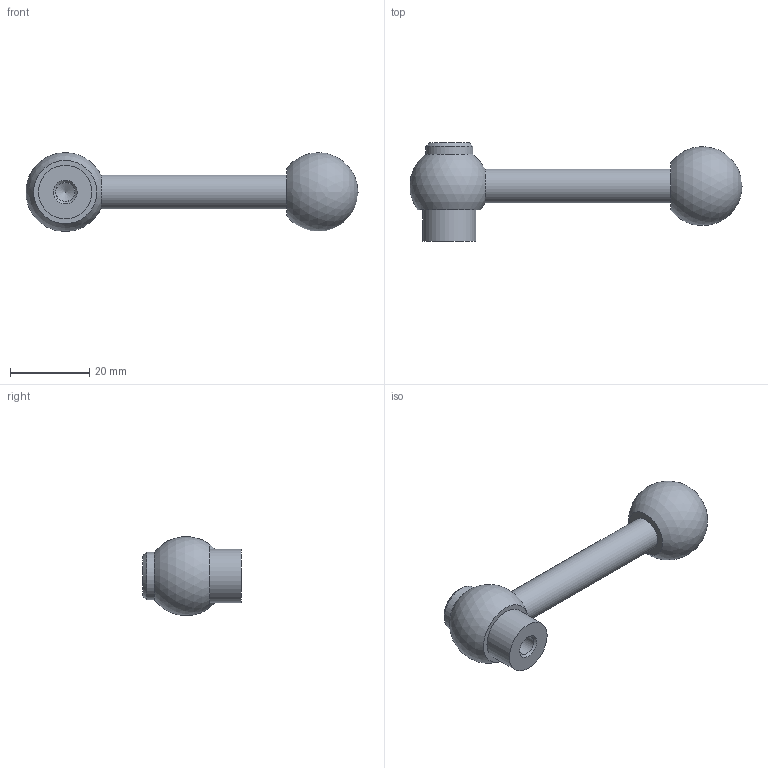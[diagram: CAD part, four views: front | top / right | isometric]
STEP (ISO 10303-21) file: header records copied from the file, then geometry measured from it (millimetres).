
FILE_DESCRIPTION( ( 'STEP AP203' ), '1' );
FILE_NAME( 'C:/Temp/Ganter_Step_05_03_2020/data/2_1/gn_6337_3/gn_6337_3_mb/gn_6337_3_mb_m/Adjustable clamping lever GN 6337.3-20-M6-M.stp', '2020-03-05T11:41:09', ( 'License CC BY-ND 4.0' ), ( 'CADENAS' ), ' ', 'PARTsolutions', ' ' );
FILE_SCHEMA( ( 'CONFIG_CONTROL_DESIGN' ) );
Length unit declared in the file: millimetre
Products named in the file (1): _Adjustable clamping lever GN 6337.3-20-M6-M
Bounding box: 83.92 x 25 x 19.97 mm (x, y, z)
Volume: 11550.3 mm3; surface area: 4206 mm2
Topology: 1 solids, 1 shells, 15 faces, 30 edges, 20 vertices
Faces by surface type: cylinder 5, plane 5, cone 3, sphere 2
Full cylindrical faces by diameter (mm): 4.8 x1, 4.917 x1, 8.5 x1, 12 x1, 13.5 x1
Entity records: 346 total; most frequent: DIRECTION 60, CARTESIAN_POINT 46, AXIS2_PLACEMENT_3D 30, EDGE_LOOP 28, ORIENTED_EDGE 28, FACE_OUTER_BOUND 21, VERTEX_POINT 16, ADVANCED_FACE 15
